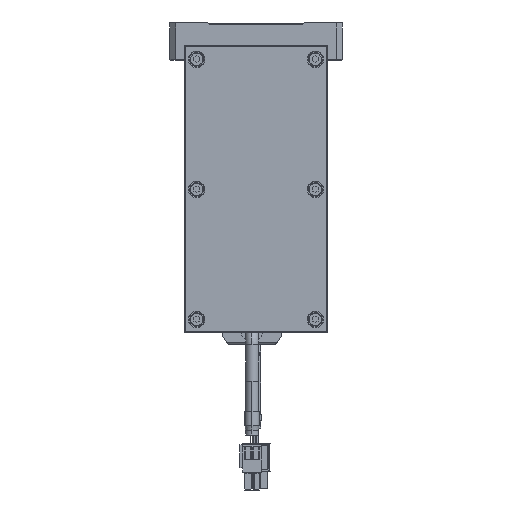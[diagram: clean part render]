
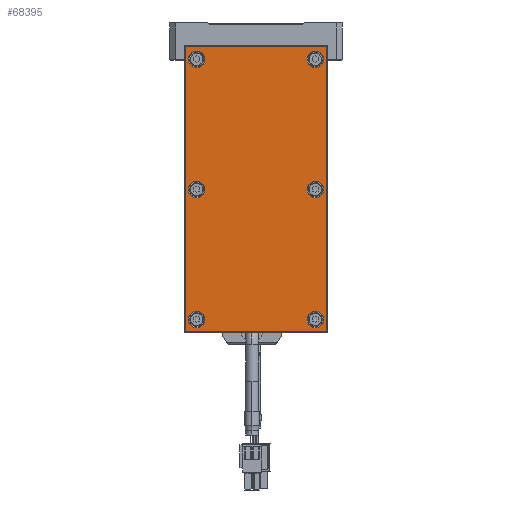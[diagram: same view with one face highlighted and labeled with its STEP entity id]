
A CAD part, front view. The second image highlights one B-rep face of the part: STEP entity #68395.
In plain terms, the highlighted planar face has unit normal (0, -1, 0).
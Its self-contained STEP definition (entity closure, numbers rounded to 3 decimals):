
#67012=CARTESIAN_POINT('',(74.,-6.,-36.5));
#67013=DIRECTION('',(0.,-1.,0.));
#67014=DIRECTION('',(0.,0.,-1.));
#67015=AXIS2_PLACEMENT_3D('',#67012,#67013,#67014);
#67017=DIRECTION('',(1.,0.,0.));
#67018=VECTOR('',#67017,148.);
#67019=CARTESIAN_POINT('',(-74.,-6.,
-37.));
#67020=LINE('',#67019,#67018);
#67021=CARTESIAN_POINT('',(-74.,-6.,-36.5));
#67022=DIRECTION('',(0.,-1.,0.));
#67023=DIRECTION('',(-1.,0.,0.));
#67024=AXIS2_PLACEMENT_3D('',#67021,#67022,#67023);
#67026=DIRECTION('',(0.,0.,-1.));
#67027=VECTOR('',#67026,73.);
#67028=CARTESIAN_POINT('',(-74.5,-6.,
36.5));
#67029=LINE('',#67028,#67027);
#67030=CARTESIAN_POINT('',(-74.,-6.,36.5));
#67031=DIRECTION('',(0.,-1.,0.));
#67032=DIRECTION('',(0.,0.,1.));
#67033=AXIS2_PLACEMENT_3D('',#67030,#67031,#67032);
#67035=DIRECTION('',(-1.,0.,0.));
#67036=VECTOR('',#67035,148.);
#67037=CARTESIAN_POINT('',(74.,-6.,
37.));
#67038=LINE('',#67037,#67036);
#67039=CARTESIAN_POINT('',(74.,-6.,36.5));
#67040=DIRECTION('',(0.,-1.,0.));
#67041=DIRECTION('',(1.,0.,0.));
#67042=AXIS2_PLACEMENT_3D('',#67039,#67040,#67041);
#67044=DIRECTION('',(0.,0.,1.));
#67045=VECTOR('',#67044,73.);
#67046=CARTESIAN_POINT('',(74.5,-6.,
-36.5));
#67047=LINE('',#67046,#67045);
#67048=CARTESIAN_POINT('',(-68.,-6.,-31.));
#67049=DIRECTION('',(0.,1.,0.));
#67050=DIRECTION('',(1.,0.,0.));
#67051=AXIS2_PLACEMENT_3D('',#67048,#67049,#67050);
#67053=CARTESIAN_POINT('',(-68.,-6.,-31.));
#67054=DIRECTION('',(0.,1.,0.));
#67055=DIRECTION('',(-1.,0.,0.));
#67056=AXIS2_PLACEMENT_3D('',#67053,#67054,#67055);
#67058=CARTESIAN_POINT('',(0.,-6.,-31.));
#67059=DIRECTION('',(0.,1.,0.));
#67060=DIRECTION('',(1.,0.,0.));
#67061=AXIS2_PLACEMENT_3D('',#67058,#67059,#67060);
#67063=CARTESIAN_POINT('',(0.,-6.,-31.));
#67064=DIRECTION('',(0.,1.,0.));
#67065=DIRECTION('',(-1.,0.,0.));
#67066=AXIS2_PLACEMENT_3D('',#67063,#67064,#67065);
#67068=CARTESIAN_POINT('',(68.,-6.,-31.));
#67069=DIRECTION('',(0.,1.,0.));
#67070=DIRECTION('',(1.,0.,0.));
#67071=AXIS2_PLACEMENT_3D('',#67068,#67069,#67070);
#67073=CARTESIAN_POINT('',(68.,-6.,-31.));
#67074=DIRECTION('',(0.,1.,0.));
#67075=DIRECTION('',(-1.,0.,0.));
#67076=AXIS2_PLACEMENT_3D('',#67073,#67074,#67075);
#67078=CARTESIAN_POINT('',(68.,-6.,31.));
#67079=DIRECTION('',(0.,1.,0.));
#67080=DIRECTION('',(1.,0.,0.));
#67081=AXIS2_PLACEMENT_3D('',#67078,#67079,#67080);
#67083=CARTESIAN_POINT('',(68.,-6.,31.));
#67084=DIRECTION('',(0.,1.,0.));
#67085=DIRECTION('',(-1.,0.,0.));
#67086=AXIS2_PLACEMENT_3D('',#67083,#67084,#67085);
#67088=CARTESIAN_POINT('',(0.,-6.,31.));
#67089=DIRECTION('',(0.,1.,0.));
#67090=DIRECTION('',(1.,0.,0.));
#67091=AXIS2_PLACEMENT_3D('',#67088,#67089,#67090);
#67093=CARTESIAN_POINT('',(0.,-6.,31.));
#67094=DIRECTION('',(0.,1.,0.));
#67095=DIRECTION('',(-1.,0.,0.));
#67096=AXIS2_PLACEMENT_3D('',#67093,#67094,#67095);
#67098=CARTESIAN_POINT('',(-68.,-6.,31.));
#67099=DIRECTION('',(0.,1.,0.));
#67100=DIRECTION('',(1.,0.,0.));
#67101=AXIS2_PLACEMENT_3D('',#67098,#67099,#67100);
#67103=CARTESIAN_POINT('',(-68.,-6.,31.));
#67104=DIRECTION('',(0.,1.,0.));
#67105=DIRECTION('',(-1.,0.,0.));
#67106=AXIS2_PLACEMENT_3D('',#67103,#67104,#67105);
#68136=CARTESIAN_POINT('',(74.,-6.,-37.));
#68137=CARTESIAN_POINT('',(74.5,-6.,-36.5));
#68138=VERTEX_POINT('',#68136);
#68139=VERTEX_POINT('',#68137);
#68144=CARTESIAN_POINT('',(74.5,-6.,
36.5));
#68145=VERTEX_POINT('',#68144);
#68148=CARTESIAN_POINT('',(74.,-6.,37.));
#68149=VERTEX_POINT('',#68148);
#68152=CARTESIAN_POINT('',(-74.,-6.,
37.));
#68153=VERTEX_POINT('',#68152);
#68156=CARTESIAN_POINT('',(-74.5,-6.,36.5));
#68157=VERTEX_POINT('',#68156);
#68160=CARTESIAN_POINT('',(-74.5,-6.,
-36.5));
#68161=VERTEX_POINT('',#68160);
#68164=CARTESIAN_POINT('',(-74.,-6.,-37.));
#68165=VERTEX_POINT('',#68164);
#68192=CARTESIAN_POINT('',(-63.7,-6.,-31.));
#68193=CARTESIAN_POINT('',(-72.3,-6.,-31.));
#68194=VERTEX_POINT('',#68192);
#68195=VERTEX_POINT('',#68193);
#68208=CARTESIAN_POINT('',(4.3,-6.,-31.));
#68209=CARTESIAN_POINT('',(-4.3,-6.,-31.));
#68210=VERTEX_POINT('',#68208);
#68211=VERTEX_POINT('',#68209);
#68232=CARTESIAN_POINT('',(72.3,-6.,-31.));
#68233=CARTESIAN_POINT('',(63.7,-6.,-31.));
#68234=VERTEX_POINT('',#68232);
#68235=VERTEX_POINT('',#68233);
#68248=CARTESIAN_POINT('',(72.3,-6.,31.));
#68249=CARTESIAN_POINT('',(63.7,-6.,31.));
#68250=VERTEX_POINT('',#68248);
#68251=VERTEX_POINT('',#68249);
#68256=CARTESIAN_POINT('',(4.3,-6.,31.));
#68257=CARTESIAN_POINT('',(-4.3,-6.,31.));
#68258=VERTEX_POINT('',#68256);
#68259=VERTEX_POINT('',#68257);
#68280=CARTESIAN_POINT('',(-63.7,-6.,31.));
#68281=CARTESIAN_POINT('',(-72.3,-6.,31.));
#68282=VERTEX_POINT('',#68280);
#68283=VERTEX_POINT('',#68281);
#68336=CARTESIAN_POINT('',(0.,-6.,0.));
#68337=DIRECTION('',(0.,1.,0.));
#68338=DIRECTION('',(1.,0.,0.));
#68339=AXIS2_PLACEMENT_3D('',#68336,#68337,#68338);
#68340=PLANE('',#68339);
#68342=ORIENTED_EDGE('',*,*,#68341,.F.);
#68344=ORIENTED_EDGE('',*,*,#68343,.F.);
#68346=ORIENTED_EDGE('',*,*,#68345,.F.);
#68348=ORIENTED_EDGE('',*,*,#68347,.F.);
#68350=ORIENTED_EDGE('',*,*,#68349,.F.);
#68352=ORIENTED_EDGE('',*,*,#68351,.F.);
#68354=ORIENTED_EDGE('',*,*,#68353,.F.);
#68356=ORIENTED_EDGE('',*,*,#68355,.F.);
#68357=EDGE_LOOP('',(#68342,#68344,#68346,#68348,#68350,#68352,#68354,#68356));
#68358=FACE_OUTER_BOUND('',#68357,.F.);
#68360=ORIENTED_EDGE('',*,*,#68359,.F.);
#68362=ORIENTED_EDGE('',*,*,#68361,.F.);
#68363=EDGE_LOOP('',(#68360,#68362));
#68364=FACE_BOUND('',#68363,.F.);
#68366=ORIENTED_EDGE('',*,*,#68365,.F.);
#68368=ORIENTED_EDGE('',*,*,#68367,.F.);
#68369=EDGE_LOOP('',(#68366,#68368));
#68370=FACE_BOUND('',#68369,.F.);
#68372=ORIENTED_EDGE('',*,*,#68371,.F.);
#68374=ORIENTED_EDGE('',*,*,#68373,.F.);
#68375=EDGE_LOOP('',(#68372,#68374));
#68376=FACE_BOUND('',#68375,.F.);
#68378=ORIENTED_EDGE('',*,*,#68377,.F.);
#68380=ORIENTED_EDGE('',*,*,#68379,.F.);
#68381=EDGE_LOOP('',(#68378,#68380));
#68382=FACE_BOUND('',#68381,.F.);
#68384=ORIENTED_EDGE('',*,*,#68383,.F.);
#68386=ORIENTED_EDGE('',*,*,#68385,.F.);
#68387=EDGE_LOOP('',(#68384,#68386));
#68388=FACE_BOUND('',#68387,.F.);
#68390=ORIENTED_EDGE('',*,*,#68389,.F.);
#68392=ORIENTED_EDGE('',*,*,#68391,.F.);
#68393=EDGE_LOOP('',(#68390,#68392));
#68394=FACE_BOUND('',#68393,.F.);
#68395=ADVANCED_FACE('',(#68358,#68364,#68370,#68376,#68382,#68388,#68394),
#68340,.F.);
#67016=CIRCLE('',#67015,0.5);
#67025=CIRCLE('',#67024,0.5);
#67034=CIRCLE('',#67033,0.5);
#67043=CIRCLE('',#67042,0.5);
#67052=CIRCLE('',#67051,4.3);
#67057=CIRCLE('',#67056,4.3);
#67062=CIRCLE('',#67061,4.3);
#67067=CIRCLE('',#67066,4.3);
#67072=CIRCLE('',#67071,4.3);
#67077=CIRCLE('',#67076,4.3);
#67082=CIRCLE('',#67081,4.3);
#67087=CIRCLE('',#67086,4.3);
#67092=CIRCLE('',#67091,4.3);
#67097=CIRCLE('',#67096,4.3);
#67102=CIRCLE('',#67101,4.3);
#67107=CIRCLE('',#67106,4.3);
#68341=EDGE_CURVE('',#68138,#68139,#67016,.T.);
#68343=EDGE_CURVE('',#68165,#68138,#67020,.T.);
#68345=EDGE_CURVE('',#68161,#68165,#67025,.T.);
#68347=EDGE_CURVE('',#68157,#68161,#67029,.T.);
#68349=EDGE_CURVE('',#68153,#68157,#67034,.T.);
#68351=EDGE_CURVE('',#68149,#68153,#67038,.T.);
#68353=EDGE_CURVE('',#68145,#68149,#67043,.T.);
#68355=EDGE_CURVE('',#68139,#68145,#67047,.T.);
#68359=EDGE_CURVE('',#68194,#68195,#67052,.T.);
#68361=EDGE_CURVE('',#68195,#68194,#67057,.T.);
#68365=EDGE_CURVE('',#68210,#68211,#67062,.T.);
#68367=EDGE_CURVE('',#68211,#68210,#67067,.T.);
#68371=EDGE_CURVE('',#68234,#68235,#67072,.T.);
#68373=EDGE_CURVE('',#68235,#68234,#67077,.T.);
#68377=EDGE_CURVE('',#68250,#68251,#67082,.T.);
#68379=EDGE_CURVE('',#68251,#68250,#67087,.T.);
#68383=EDGE_CURVE('',#68258,#68259,#67092,.T.);
#68385=EDGE_CURVE('',#68259,#68258,#67097,.T.);
#68389=EDGE_CURVE('',#68282,#68283,#67102,.T.);
#68391=EDGE_CURVE('',#68283,#68282,#67107,.T.);
